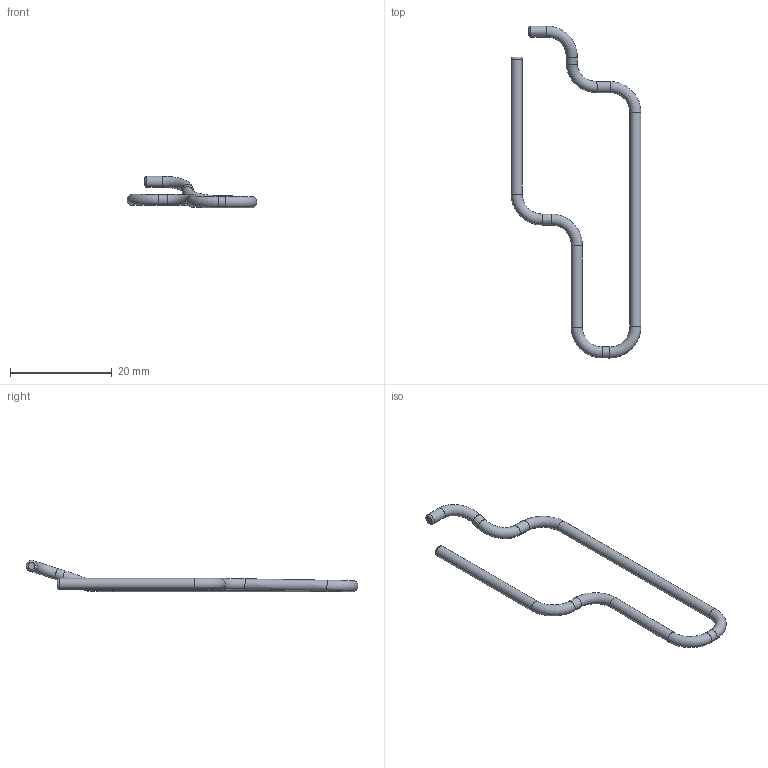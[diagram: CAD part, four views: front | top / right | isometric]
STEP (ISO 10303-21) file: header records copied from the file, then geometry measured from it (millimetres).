
FILE_DESCRIPTION(('Open CASCADE Model'),'2;1');
FILE_NAME('CUT_ROUTE_24_RADIAL_CLEARANCE_0p4','2026-09-15T14:22:09',( 'Author'),('Open CASCADE'),'Open CASCADE STEP processor 7.9', 'build123d','Unknown');
FILE_SCHEMA(('AUTOMOTIVE_DESIGN { 1 0 10303 214 1 1 1 1 }'));
Length unit declared in the file: millimetre
Products named in the file (1): CUT_ROUTE_24_RADIAL_CLEARANCE_0p4
Bounding box: 25.47 x 65.17 x 6.17 mm (x, y, z)
Volume: 557.3 mm3; surface area: 1033 mm2
Topology: 1 solids, 1 shells, 19 faces, 35 edges, 18 vertices
Faces by surface type: torus 9, cylinder 8, plane 2
Full cylindrical faces by diameter (mm): 2.17 x8
Entity records: 904 total; most frequent: CARTESIAN_POINT 172, DIRECTION 143, ORIENTED_EDGE 70, PCURVE 70, DEFINITIONAL_REPRESENTATION 70, AXIS2_PLACEMENT_3D 47, LINE 47, VECTOR 47
